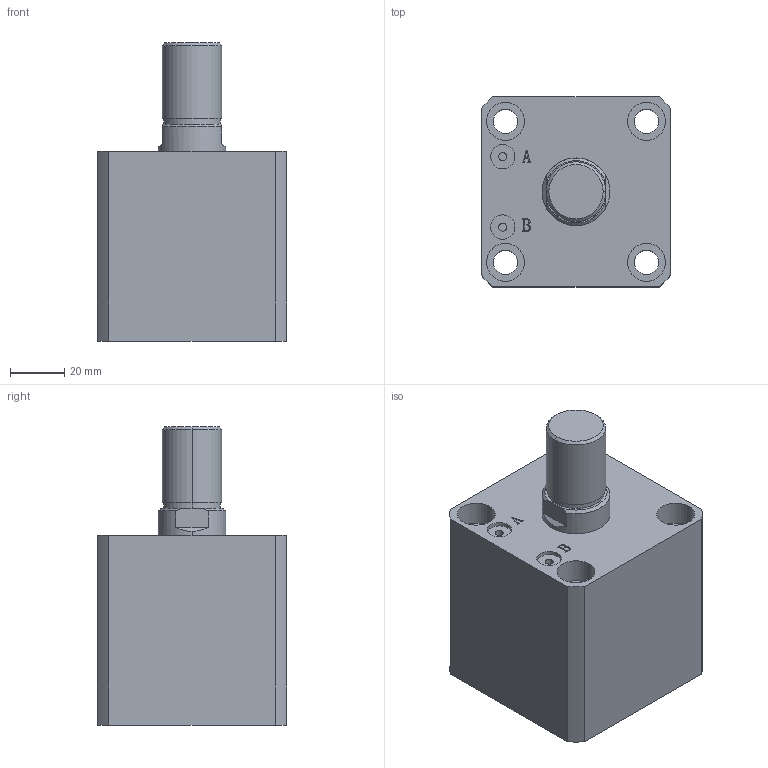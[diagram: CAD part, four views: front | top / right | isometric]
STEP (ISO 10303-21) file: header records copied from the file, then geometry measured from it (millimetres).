
FILE_DESCRIPTION (( 'STEP AP203' ), '1' );
FILE_NAME ('HTB-SDMA40-15W.STEP', '2019-10-07T11:50:47', ( '微软用户' ), ( '微软中国' ), 'SwSTEP 2.0', 'SolidWorks 2012', '' );
FILE_SCHEMA (( 'CONFIG_CONTROL_DESIGN' ));
Length unit declared in the file: millimetre
Products named in the file (3): HTB-SDMA40-15W; HTB-SDMA40-15W活塞杆; HTB-SDMA40-15掛极
Assembly tree (2 placements, depth 2):
  HTB-SDMA40-15W
    HTB-SDMA40-15掛极
    HTB-SDMA40-15W活塞杆
Bounding box: 70 x 70 x 110 mm (x, y, z)
Volume: 320157.2 mm3; surface area: 56236.1 mm2
Topology: 2 solids, 2 shells, 141 faces, 337 edges, 222 vertices
Faces by surface type: plane 67, cylinder 48, bspline 16, torus 6, cone 4
Entity records: 5180 total; most frequent: CARTESIAN_POINT 1597, ORIENTED_EDGE 674, DIRECTION 669, EDGE_CURVE 337, AXIS2_PLACEMENT_3D 242, VERTEX_POINT 222, VECTOR 185, LINE 185
